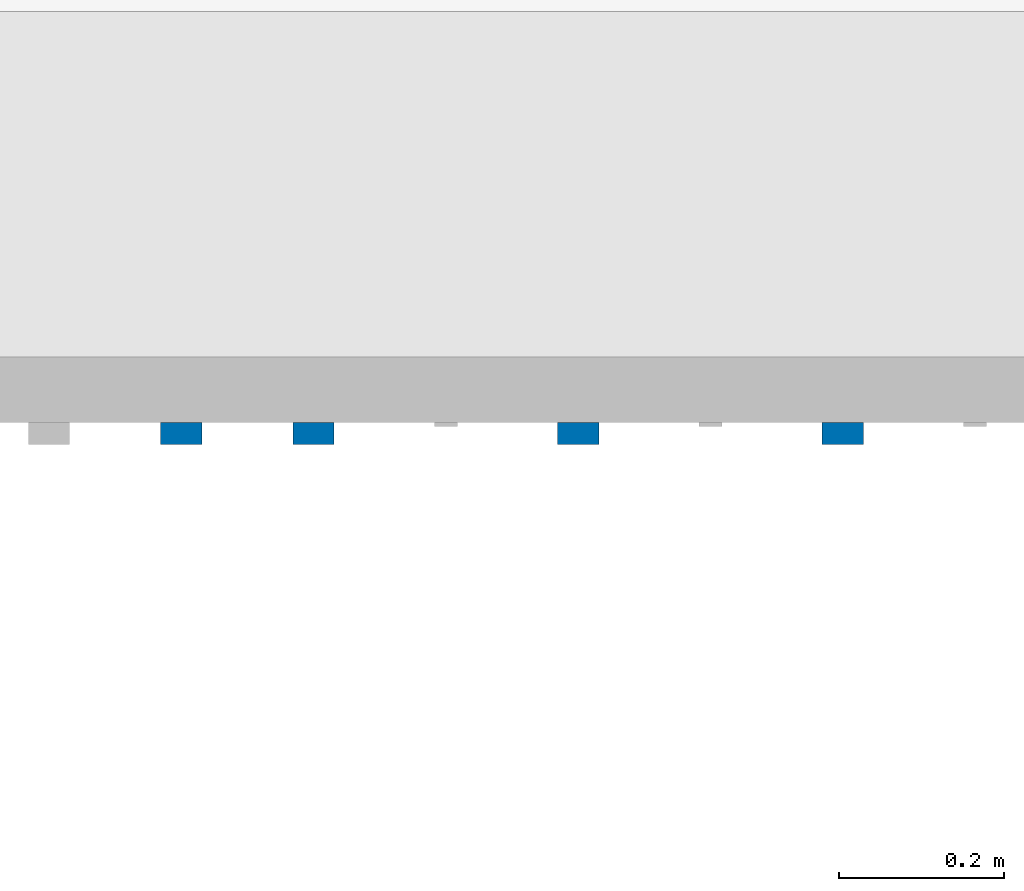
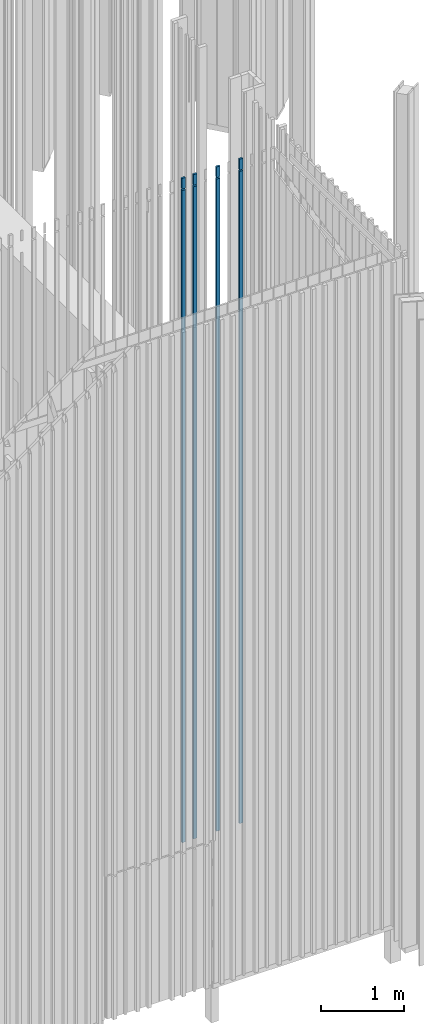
# One storey, part 174 of 390: 4 walls.
"""IFC2X3 building model written with IfcOpenShell, lengths in millimetres."""

from ifc_helpers import new_model, entity, si_unit, converted_unit, derived_unit, money_unit, direction, frame, origin_with_axes, place, context, subcontext, project, spatial, faceted_brep, material, material_list, type_object, element, save


model = new_model("IFC2X3")

# Units and contexts
model_context = context("Model", 3, precision=1e-05, world=origin_with_axes(), true_north=direction((0.0, 1.0)))
body_context = subcontext(model_context, "Body", "Model", "MODEL_VIEW")
ifc_project = project(units=[si_unit("LENGTHUNIT", "METRE", prefix="MILLI"), si_unit("AREAUNIT", "SQUARE_METRE"), si_unit("VOLUMEUNIT", "CUBIC_METRE"), converted_unit("PLANEANGLEUNIT", "DEGREE", entity("IfcPlaneAngleMeasure", 0.0174532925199), si_unit("PLANEANGLEUNIT", "RADIAN"), dimensions=[0, 0, 0, 0, 0, 0, 0]), si_unit("SOLIDANGLEUNIT", "STERADIAN"), money_unit("EUR"), converted_unit("TIMEUNIT", "Year", entity("IfcTimeMeasure", 31556926.0), si_unit("TIMEUNIT", "SECOND"), dimensions=[0, 0, 1, 0, 0, 0, 0]), si_unit("MASSUNIT", "GRAM", prefix="KILO"), si_unit("THERMODYNAMICTEMPERATUREUNIT", "DEGREE_CELSIUS"), si_unit("LUMINOUSINTENSITYUNIT", "LUMEN"), si_unit("ENERGYUNIT", "JOULE", prefix="MEGA"), derived_unit("THERMALCONDUCTANCEUNIT", [(si_unit("POWERUNIT", "WATT"), 1), (si_unit("LENGTHUNIT", "METRE"), -1), (si_unit("THERMODYNAMICTEMPERATUREUNIT", "KELVIN"), -1)]), derived_unit("SPECIFICHEATCAPACITYUNIT", [(si_unit("ENERGYUNIT", "JOULE"), 1), (si_unit("MASSUNIT", "GRAM", prefix="KILO"), -1), (si_unit("THERMODYNAMICTEMPERATUREUNIT", "KELVIN"), -1)]), derived_unit("MASSDENSITYUNIT", [(si_unit("MASSUNIT", "GRAM", prefix="KILO"), 1), (si_unit("VOLUMEUNIT", "CUBIC_METRE"), -1)])], contexts=[model_context])

# Site, building, storey
site_placement = place(None, origin_with_axes())
site = spatial("IfcSite", under=ifc_project, at=site_placement, Name="Site", CompositionType="ELEMENT")
building_placement = place(site_placement, origin_with_axes())
building = spatial("IfcBuilding", under=site, at=building_placement, Name="Building", CompositionType="ELEMENT")
storey_placement = place(building_placement, origin_with_axes())
storey = spatial("IfcBuildingStorey", under=building, at=storey_placement, Name="1 korrus", CompositionType="ELEMENT", Elevation=0.0)

# Walls
ifc_material = material(Name="Site specified")
ifc_material_list = material_list([ifc_material, ifc_material])
wall_type = type_object("IfcWallType", Name="Puitfassaadi ribistik", PredefinedType="NOTDEFINED")
wall_1_placement = place(storey_placement, frame((139064.000037, 45260.9999093, 100.000000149), z_axis=(0.0, 0.0, 1.0), x_axis=(-1.0, 0.0, 0.0)))
element("IfcWall", 1, at=wall_1_placement, inside=storey, type_object=wall_type, material=ifc_material_list, Name="Site specified", context=body_context, shape_type="Brep", body=[
    faceted_brep([(25.0, -2.00000278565, -3.12924797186e-06), (25.0, -2.00009909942, 9591.91725957), (-25.0, -2.00009910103, 9591.91725957), (-25.0, -2.00000278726, -3.12924797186e-06), (25.0, 25.0, 0.0), (25.0, 25.0, 9586.17821134), (-25.0, 25.0, 9586.17821134), (-25.0, 25.0, 0.0)], [[[0, 1, 2, 3]], [[4, 5, 1, 0]], [[5, 6, 2, 1]], [[3, 2, 6, 7]], [[0, 3, 7, 4]], [[7, 6, 5, 4]]]),
    faceted_brep([(-25.0, 25.0, 9764.99999985), (-25.0, 25.0, 9607.64736383), (-25.0, -2.00009910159, 9613.38641206), (-25.0, -2.00009910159, 9764.99999985), (25.0, 25.0, 9764.99999985), (25.0, 25.0, 9607.64736383), (25.0, -2.00009909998, 9613.38641206), (25.0, -2.00009909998, 9764.99999985)], [[[0, 1, 2, 3]], [[4, 5, 1, 0]], [[5, 6, 2, 1]], [[3, 2, 6, 7]], [[3, 7, 4, 0]], [[7, 6, 5, 4]]]),
])
wall_2_placement = place(storey_placement, frame((138264.000037, 45260.9999592, 100.000000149), z_axis=(0.0, 0.0, 1.0), x_axis=(-1.0, 0.0, 0.0)))
element("IfcWall", 2, at=wall_2_placement, inside=storey, type_object=wall_type, material=ifc_material_list, Name="Site specified", context=body_context, shape_type="Brep", body=[
    faceted_brep([(25.0, -1.99995286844, -3.12924797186e-06), (25.0, -2.0000491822, 9591.91725957), (-25.0, -2.00004918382, 9591.91725957), (-25.0, -1.99995287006, -3.12924797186e-06), (25.0, 25.0, 0.0), (25.0, 25.0, 9586.17822195), (-25.0, 25.0, 9586.17822195), (-25.0, 25.0, 0.0)], [[[0, 1, 2, 3]], [[4, 5, 1, 0]], [[5, 6, 2, 1]], [[3, 2, 6, 7]], [[0, 3, 7, 4]], [[7, 6, 5, 4]]]),
    faceted_brep([(-25.0, 25.0, 9764.99999985), (-25.0, 25.0, 9607.64737444), (-25.0, -2.00004918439, 9613.38641206), (-25.0, -2.00004918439, 9764.99999985), (25.0, 25.0, 9764.99999985), (25.0, 25.0, 9607.64737445), (25.0, -2.00004918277, 9613.38641206), (25.0, -2.00004918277, 9764.99999985)], [[[0, 1, 2, 3]], [[4, 5, 1, 0]], [[5, 6, 2, 1]], [[3, 2, 6, 7]], [[3, 7, 4, 0]], [[7, 6, 5, 4]]]),
])
wall_3_placement = place(storey_placement, frame((138424.000037, 45260.9999592, 100.000000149), z_axis=(0.0, 0.0, 1.0), x_axis=(-1.0, 0.0, 0.0)))
element("IfcWall", 3, at=wall_3_placement, inside=storey, type_object=wall_type, material=ifc_material_list, Name="Site specified", context=body_context, shape_type="Brep", body=[
    faceted_brep([(25.0, -1.99995286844, -3.12924797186e-06), (25.0, -2.00004918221, 9591.91725957), (-25.0, -2.00004918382, 9591.91725957), (-25.0, -1.99995287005, -3.12924797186e-06), (25.0, 25.0, 0.0), (25.0, 25.0, 9586.17822195), (-25.0, 25.0, 9586.17822195), (-25.0, 25.0, 0.0)], [[[0, 1, 2, 3]], [[4, 5, 1, 0]], [[5, 6, 2, 1]], [[3, 2, 6, 7]], [[0, 3, 7, 4]], [[7, 6, 5, 4]]]),
    faceted_brep([(-25.0, 25.0, 9764.99999985), (-25.0, 25.0, 9607.64737444), (-25.0, -2.00004918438, 9613.38641206), (-25.0, -2.00004918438, 9764.99999985), (25.0, 25.0, 9764.99999985), (25.0, 25.0, 9607.64737445), (25.0, -2.00004918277, 9613.38641206), (25.0, -2.00004918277, 9764.99999985)], [[[0, 1, 2, 3]], [[4, 5, 1, 0]], [[5, 6, 2, 1]], [[3, 2, 6, 7]], [[3, 7, 4, 0]], [[7, 6, 5, 4]]]),
])
wall_4_placement = place(storey_placement, frame((138744.000037, 45260.9999592, 100.000000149), z_axis=(0.0, 0.0, 1.0), x_axis=(-1.0, 0.0, 0.0)))
element("IfcWall", 4, at=wall_4_placement, inside=storey, type_object=wall_type, material=ifc_material_list, Name="Site specified", context=body_context, shape_type="Brep", body=[
    faceted_brep([(25.0, -1.99995286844, -3.12924797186e-06), (25.0, -2.0000491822, 9591.91725957), (-25.0, -2.00004918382, 9591.91725957), (-25.0, -1.99995287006, -3.12924797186e-06), (25.0, 25.0, 0.0), (25.0, 25.0, 9586.17822195), (-25.0, 25.0, 9586.17822195), (-25.0, 25.0, 0.0)], [[[0, 1, 2, 3]], [[4, 5, 1, 0]], [[5, 6, 2, 1]], [[3, 2, 6, 7]], [[0, 3, 7, 4]], [[7, 6, 5, 4]]]),
    faceted_brep([(-25.0, 25.0, 9764.99999985), (-25.0, 25.0, 9607.64737444), (-25.0, -2.00004918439, 9613.38641206), (-25.0, -2.00004918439, 9764.99999985), (25.0, 25.0, 9764.99999985), (25.0, 25.0, 9607.64737445), (25.0, -2.00004918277, 9613.38641206), (25.0, -2.00004918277, 9764.99999985)], [[[0, 1, 2, 3]], [[4, 5, 1, 0]], [[5, 6, 2, 1]], [[3, 2, 6, 7]], [[3, 7, 4, 0]], [[7, 6, 5, 4]]]),
])

save(model, "model.ifc")
